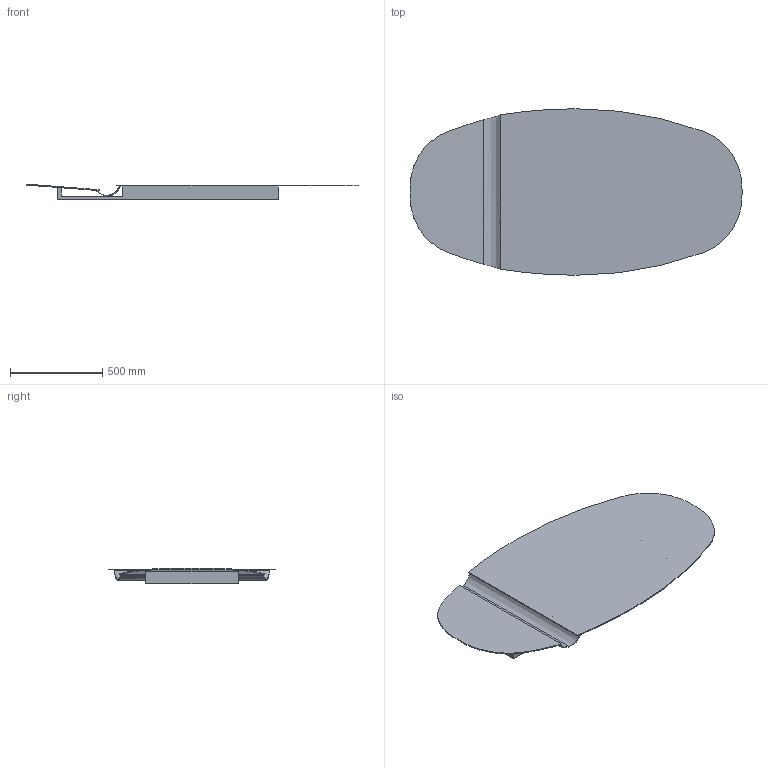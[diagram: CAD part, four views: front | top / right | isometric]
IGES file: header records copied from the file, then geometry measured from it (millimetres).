
Start section: SolidWorks IGES file using analytic representation for surfaces
Global section: file name: Y:\eforma\TECNICO\SOLIDWORKS\E-FORMA\4-SPECCHI\LET\02 parts\LET02-00-SPECCHIO LET 179,5x90.IGS; native system: SolidWorks 2022; preprocessor: SolidWorks 2022; author: eforma.tech; date: 241028.152038; units: millimetre
Bounding box: 1794.94 x 900 x 84.99 mm (x, y, z)
Volume: 42583308 mm3; surface area: 4271125 mm2
Topology: 4 solids, 4 shells, 37 faces, 87 edges, 58 vertices
Faces by surface type: plane 20, revolution 17
